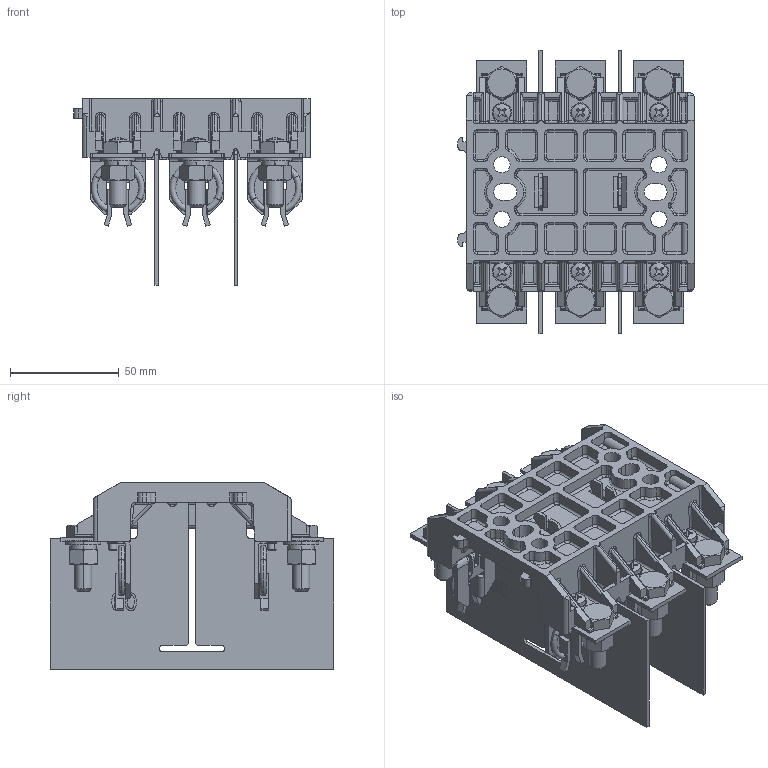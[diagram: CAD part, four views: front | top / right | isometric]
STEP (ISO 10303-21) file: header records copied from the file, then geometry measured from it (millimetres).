
FILE_DESCRIPTION (( 'STEP AP214' ), '1' );
FILE_NAME ('pojistkovy_spodek_880027_-_0.STEP', '2022-06-03T12:20:52', ( '' ), ( '' ), 'SwSTEP 2.0', 'SolidWorks 2015', '' );
FILE_SCHEMA (( 'AUTOMOTIVE_DESIGN' ));
Length unit declared in the file: millimetre
Products named in the file (12): potisk_984095_-_0_Z00; Podlozka_CSN_021740_8_NA010081_-_0; Sroub_ISO_4017_M8x25_3092030109_-_0; zakladna_523134_-_0_Z00; SROUB_M4x10_DIN7985A_BN384__NA010191_a_0; Podlozka_CSN_021702_8_4_3112102023_-_0; Kontakt_561118_-_0_Z00-s; Matice_ISO4032_M8_3111200051_-_0; Podlozka_CSN_021703_4_3_NA010022_-_0; Vlozka_530975_-_0_Z00; pojistkovy_spodek_880027_-_0; KROUZEK_393039_g_0_sestava
Assembly tree (52 placements, depth 2):
  pojistkovy_spodek_880027_-_0
    zakladna_523134_-_0_Z00
    potisk_984095_-_0_Z00
    Kontakt_561118_-_0_Z00-s  x6
    KROUZEK_393039_g_0_sestava  x6
    Podlozka_CSN_021703_4_3_NA010022_-_0  x6
    SROUB_M4x10_DIN7985A_BN384__NA010191_a_0  x6
    Vlozka_530975_-_0_Z00  x2
    Sroub_ISO_4017_M8x25_3092030109_-_0  x6
    Podlozka_CSN_021702_8_4_3112102023_-_0  x6
    Podlozka_CSN_021740_8_NA010081_-_0  x6
    Matice_ISO4032_M8_3111200051_-_0  x6
Bounding box: 108.5 x 130 x 85.7 mm (x, y, z)
Volume: 139082.4 mm3; surface area: 125526.3 mm2
Topology: 52 solids, 52 shells, 4112 faces, 10921 edges, 6994 vertices
Faces by surface type: plane 2021, cylinder 1269, bspline 420, torus 240, cone 120, sphere 42
Entity records: 94099 total; most frequent: CARTESIAN_POINT 35692, ORIENTED_EDGE 11642, DIRECTION 9937, EDGE_CURVE 5821, VERTEX_POINT 3690, VECTOR 3339, LINE 3339, AXIS2_PLACEMENT_3D 3299
